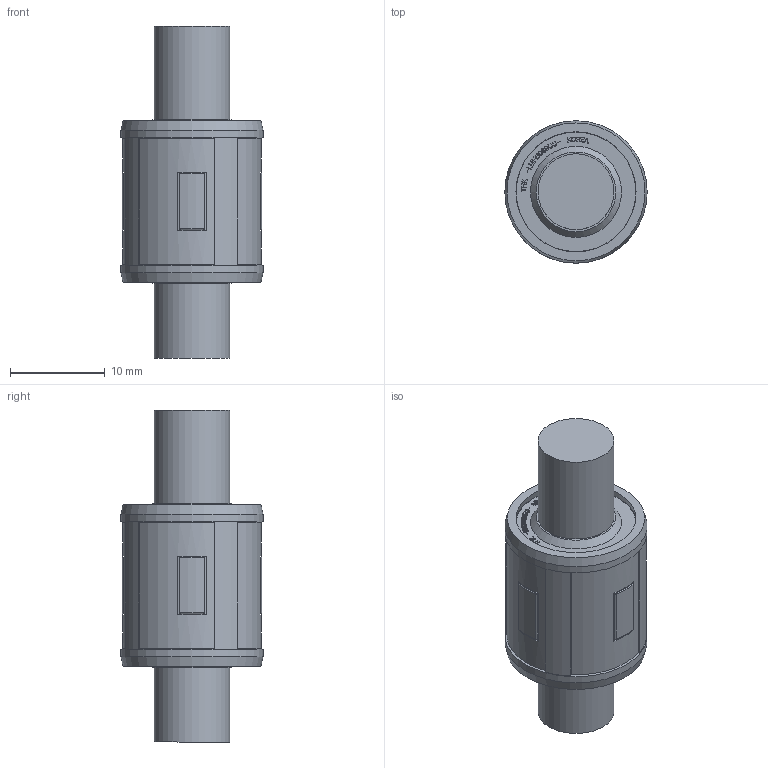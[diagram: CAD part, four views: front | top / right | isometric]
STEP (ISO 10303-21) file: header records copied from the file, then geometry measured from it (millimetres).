
FILE_DESCRIPTION(/* description */ (''),/* implementation_level */ '2;1');
FILE_NAME(/* name */ 'C:\Users\조경제\OneDrive - mysamick.com\바탕 화면\STP\STP_rev1\CLB08SUU.stp',/* time_stamp */ '2025-02-05T13:51:42+09:00',/* author */ ('조경제'),/* organization */ (''),/* preprocessor_version */ 'ST-DEVELOPER v17',/* originating_system */ 'Autodesk Inventor 2019',/* authorisation */ '');
FILE_SCHEMA (('AUTOMOTIVE_DESIGN { 1 0 10303 214 3 1 1 }'));
Length unit declared in the file: millimetre
Products named in the file (1): CLB08SUU
Bounding box: 15 x 15 x 35 mm (x, y, z)
Volume: 3706.5 mm3; surface area: 1929.1 mm2
Topology: 1 solids, 1 shells, 1050 faces, 2880 edges, 1908 vertices
Faces by surface type: bspline 648, plane 316, cylinder 54, sphere 16, torus 10, cone 6
Full cylindrical faces by diameter (mm): 8 x2, 12.6 x2, 12.9 x2, 13 x2, 15 x2
Entity records: 36221 total; most frequent: CARTESIAN_POINT 12805, ORIENTED_EDGE 5760, EDGE_CURVE 2880, DIRECTION 2544, VERTEX_POINT 1908, LINE 1398, VECTOR 1398, B_SPLINE_CURVE_WITH_KNOTS 1312
